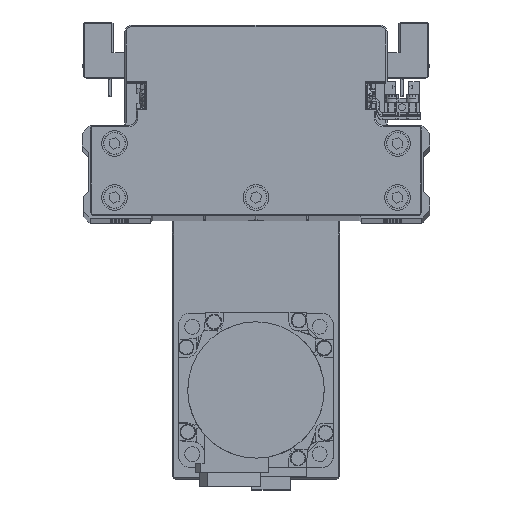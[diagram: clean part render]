
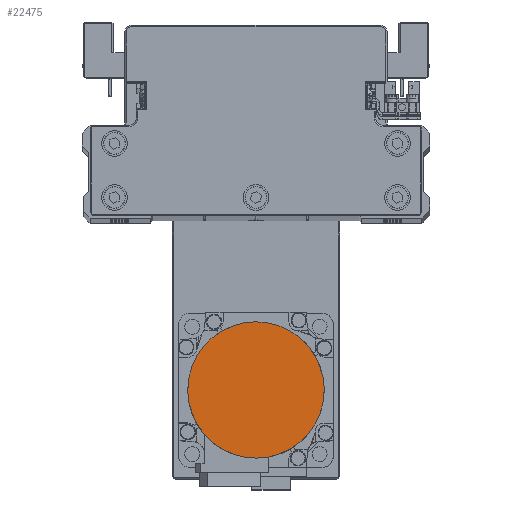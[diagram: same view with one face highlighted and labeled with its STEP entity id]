
A CAD part, top view. The second image highlights one B-rep face of the part: STEP entity #22475.
In plain terms, the highlighted planar face has unit normal (0, 0, 1) as drawn and (0, 0, -1) by its records, which use the part's own axes.
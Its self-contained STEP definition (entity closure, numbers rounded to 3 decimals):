
#1231 = CARTESIAN_POINT ( 'NONE',  ( -16.165, -21.07, -109.7 ) ) ;
#1416 = B_SPLINE_CURVE_WITH_KNOTS ( 'NONE', 3,
 ( #39182, #10607, #23322, #36058, #7482, #20197, #32913, #4336, #17066, #29784, #1231, #13938, #26660, #39394, #10809, #23525, #36260, #7680, #20397, #33123, #4551, #17289, #29994, #1440, #14139, #26855, #39592, #11010, #23722, #36465, #7892, #20611, #33332, #4759 ),
 .UNSPECIFIED., .F., .F.,
 ( 4, 2, 2, 2, 2, 2, 2, 2, 2, 2, 2, 2, 2, 2, 2, 2, 4 ),
 ( 0., 0.063, 0.125, 0.188, 0.25, 0.312, 0.375, 0.437, 0.5, 0.562, 0.625, 0.687, 0.75, 0.813, 0.875, 0.938, 1. ),
 .UNSPECIFIED. ) ;
#1440 = CARTESIAN_POINT ( 'NONE',  ( 16.165, -21.07, -109.7 ) ) ;
#1982 = CARTESIAN_POINT ( 'NONE',  ( 25.652, 6.871, -109.7 ) ) ;
#2183 = CARTESIAN_POINT ( 'NONE',  ( 1.734, 26.5, -109.7 ) ) ;
#2387 = CARTESIAN_POINT ( 'NONE',  ( -25.147, 8.539, -109.7 ) ) ;
#3739 = EDGE_CURVE ( 'NONE', #7245, #14722, #8754, .T. ) ;
#4115 = FACE_OUTER_BOUND ( 'NONE', #19899, .T. ) ;
#4336 = CARTESIAN_POINT ( 'NONE',  ( -21.07, -16.165, -109.7 ) ) ;
#4551 = CARTESIAN_POINT ( 'NONE',  ( 8.539, -25.147, -109.7 ) ) ;
#4759 = CARTESIAN_POINT ( 'NONE',  ( 26.5, 0., -109.7 ) ) ;
#5093 = CARTESIAN_POINT ( 'NONE',  ( 26.5, 0., -109.7 ) ) ;
#5315 = CARTESIAN_POINT ( 'NONE',  ( 8.539, 25.147, -109.7 ) ) ;
#5516 = CARTESIAN_POINT ( 'NONE',  ( -21.07, 16.165, -109.7 ) ) ;
#7245 = VERTEX_POINT ( 'NONE', #39811 ) ;
#7482 = CARTESIAN_POINT ( 'NONE',  ( -25.147, -8.539, -109.7 ) ) ;
#7680 = CARTESIAN_POINT ( 'NONE',  ( 1.734, -26.5, -109.7 ) ) ;
#7892 = CARTESIAN_POINT ( 'NONE',  ( 25.652, -6.871, -109.7 ) ) ;
#8443 = CARTESIAN_POINT ( 'NONE',  ( 16.165, 21.07, -109.7 ) ) ;
#8656 = CARTESIAN_POINT ( 'NONE',  ( -16.165, 21.07, -109.7 ) ) ;
#8754 = B_SPLINE_CURVE_WITH_KNOTS ( 'NONE', 3,
 ( #5093, #17830, #30548, #1982, #14694, #27419, #40148, #11573, #24281, #37015, #8443, #21158, #33886, #5315, #18042, #30748, #2183, #14895, #27616, #40348, #11777, #24490, #37226, #8656, #21375, #34097, #5516, #18241, #30946, #2387, #15104, #27835, #40567, #11988 ),
 .UNSPECIFIED., .F., .F.,
 ( 4, 2, 2, 2, 2, 2, 2, 2, 2, 2, 2, 2, 2, 2, 2, 2, 4 ),
 ( 0., 0.062, 0.125, 0.187, 0.25, 0.312, 0.375, 0.437, 0.5, 0.562, 0.625, 0.687, 0.75, 0.813, 0.875, 0.938, 1. ),
 .UNSPECIFIED. ) ;
#10582 = DIRECTION ( 'NONE',  ( 0., 0., 1. ) ) ;
#10607 = CARTESIAN_POINT ( 'NONE',  ( -26.5, -1.734, -109.7 ) ) ;
#10809 = CARTESIAN_POINT ( 'NONE',  ( -6.871, -25.652, -109.7 ) ) ;
#11010 = CARTESIAN_POINT ( 'NONE',  ( 22.998, -13.28, -109.7 ) ) ;
#11573 = CARTESIAN_POINT ( 'NONE',  ( 21.07, 16.165, -109.7 ) ) ;
#11777 = CARTESIAN_POINT ( 'NONE',  ( -8.539, 25.147, -109.7 ) ) ;
#11988 = CARTESIAN_POINT ( 'NONE',  ( -26.5, 0., -109.7 ) ) ;
#13938 = CARTESIAN_POINT ( 'NONE',  ( -13.28, -22.998, -109.7 ) ) ;
#14092 = ORIENTED_EDGE ( 'NONE', *, *, #18714, .F. ) ;
#14139 = CARTESIAN_POINT ( 'NONE',  ( 17.512, -19.965, -109.7 ) ) ;
#14694 = CARTESIAN_POINT ( 'NONE',  ( 25.147, 8.539, -109.7 ) ) ;
#14722 = VERTEX_POINT ( 'NONE', #35416 ) ;
#14895 = CARTESIAN_POINT ( 'NONE',  ( -1.734, 26.5, -109.7 ) ) ;
#15104 = CARTESIAN_POINT ( 'NONE',  ( -25.652, 6.871, -109.7 ) ) ;
#17066 = CARTESIAN_POINT ( 'NONE',  ( -19.965, -17.512, -109.7 ) ) ;
#17289 = CARTESIAN_POINT ( 'NONE',  ( 11.744, -23.819, -109.7 ) ) ;
#17830 = CARTESIAN_POINT ( 'NONE',  ( 26.5, 1.734, -109.7 ) ) ;
#18042 = CARTESIAN_POINT ( 'NONE',  ( 6.871, 25.652, -109.7 ) ) ;
#18241 = CARTESIAN_POINT ( 'NONE',  ( -22.998, 13.28, -109.7 ) ) ;
#18714 = EDGE_CURVE ( 'NONE', #14722, #7245, #1416, .T. ) ;
#19899 = EDGE_LOOP ( 'NONE', ( #37398, #14092 ) ) ;
#20197 = CARTESIAN_POINT ( 'NONE',  ( -23.819, -11.744, -109.7 ) ) ;
#20397 = CARTESIAN_POINT ( 'NONE',  ( 3.469, -26.329, -109.7 ) ) ;
#20611 = CARTESIAN_POINT ( 'NONE',  ( 26.329, -3.469, -109.7 ) ) ;
#21158 = CARTESIAN_POINT ( 'NONE',  ( 13.28, 22.998, -109.7 ) ) ;
#21375 = CARTESIAN_POINT ( 'NONE',  ( -17.512, 19.965, -109.7 ) ) ;
#22475 = ADVANCED_FACE ( 'NONE', ( #4115 ), #26420, .F. ) ;
#23300 = DIRECTION ( 'NONE',  ( 1., 0., 0. ) ) ;
#23322 = CARTESIAN_POINT ( 'NONE',  ( -26.329, -3.469, -109.7 ) ) ;
#23525 = CARTESIAN_POINT ( 'NONE',  ( -3.469, -26.329, -109.7 ) ) ;
#23722 = CARTESIAN_POINT ( 'NONE',  ( 23.819, -11.744, -109.7 ) ) ;
#24030 = AXIS2_PLACEMENT_3D ( 'NONE', #39155, #10582, #23300 ) ;
#24281 = CARTESIAN_POINT ( 'NONE',  ( 19.965, 17.512, -109.7 ) ) ;
#24490 = CARTESIAN_POINT ( 'NONE',  ( -11.744, 23.819, -109.7 ) ) ;
#26420 = PLANE ( 'NONE',  #24030 ) ;
#26660 = CARTESIAN_POINT ( 'NONE',  ( -11.744, -23.819, -109.7 ) ) ;
#26855 = CARTESIAN_POINT ( 'NONE',  ( 19.965, -17.512, -109.7 ) ) ;
#27419 = CARTESIAN_POINT ( 'NONE',  ( 23.819, 11.744, -109.7 ) ) ;
#27616 = CARTESIAN_POINT ( 'NONE',  ( -3.469, 26.329, -109.7 ) ) ;
#27835 = CARTESIAN_POINT ( 'NONE',  ( -26.329, 3.469, -109.7 ) ) ;
#29784 = CARTESIAN_POINT ( 'NONE',  ( -17.512, -19.965, -109.7 ) ) ;
#29994 = CARTESIAN_POINT ( 'NONE',  ( 13.28, -22.998, -109.7 ) ) ;
#30548 = CARTESIAN_POINT ( 'NONE',  ( 26.329, 3.469, -109.7 ) ) ;
#30748 = CARTESIAN_POINT ( 'NONE',  ( 3.469, 26.329, -109.7 ) ) ;
#30946 = CARTESIAN_POINT ( 'NONE',  ( -23.819, 11.744, -109.7 ) ) ;
#32913 = CARTESIAN_POINT ( 'NONE',  ( -22.998, -13.28, -109.7 ) ) ;
#33123 = CARTESIAN_POINT ( 'NONE',  ( 6.871, -25.652, -109.7 ) ) ;
#33332 = CARTESIAN_POINT ( 'NONE',  ( 26.5, -1.734, -109.7 ) ) ;
#33886 = CARTESIAN_POINT ( 'NONE',  ( 11.744, 23.819, -109.7 ) ) ;
#34097 = CARTESIAN_POINT ( 'NONE',  ( -19.965, 17.512, -109.7 ) ) ;
#35416 = CARTESIAN_POINT ( 'NONE',  ( -26.5, 0., -109.7 ) ) ;
#36058 = CARTESIAN_POINT ( 'NONE',  ( -25.652, -6.871, -109.7 ) ) ;
#36260 = CARTESIAN_POINT ( 'NONE',  ( -1.734, -26.5, -109.7 ) ) ;
#36465 = CARTESIAN_POINT ( 'NONE',  ( 25.147, -8.539, -109.7 ) ) ;
#37015 = CARTESIAN_POINT ( 'NONE',  ( 17.512, 19.965, -109.7 ) ) ;
#37226 = CARTESIAN_POINT ( 'NONE',  ( -13.28, 22.998, -109.7 ) ) ;
#37398 = ORIENTED_EDGE ( 'NONE', *, *, #3739, .F. ) ;
#39155 = CARTESIAN_POINT ( 'NONE',  ( 0., 0., -109.7 ) ) ;
#39182 = CARTESIAN_POINT ( 'NONE',  ( -26.5, 0., -109.7 ) ) ;
#39394 = CARTESIAN_POINT ( 'NONE',  ( -8.539, -25.147, -109.7 ) ) ;
#39592 = CARTESIAN_POINT ( 'NONE',  ( 21.07, -16.165, -109.7 ) ) ;
#39811 = CARTESIAN_POINT ( 'NONE',  ( 26.5, 0., -109.7 ) ) ;
#40148 = CARTESIAN_POINT ( 'NONE',  ( 22.998, 13.28, -109.7 ) ) ;
#40348 = CARTESIAN_POINT ( 'NONE',  ( -6.871, 25.652, -109.7 ) ) ;
#40567 = CARTESIAN_POINT ( 'NONE',  ( -26.5, 1.734, -109.7 ) ) ;
